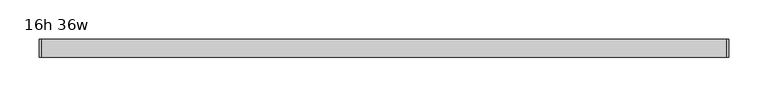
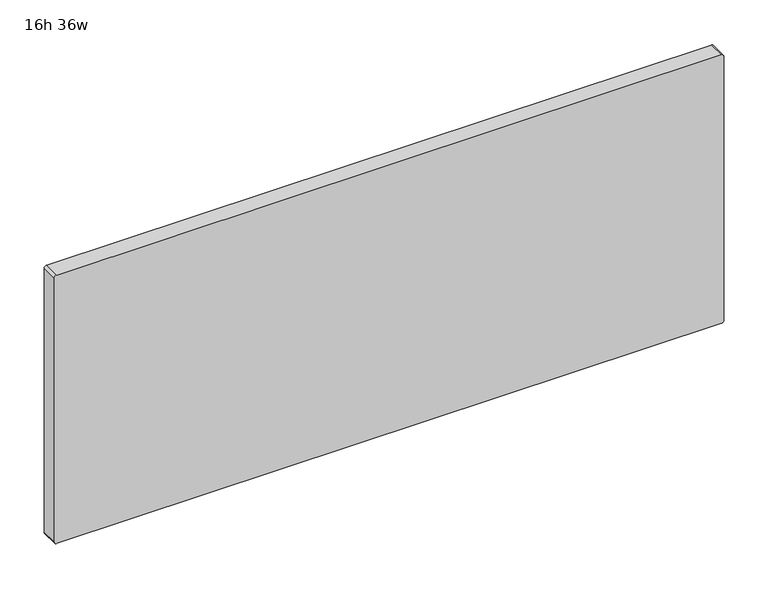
"""IFC4 building model written with IfcOpenShell, lengths in millimetres: furniture geometry, Haworth_BeHold_Accessory_Tackboard : 16h 36w."""

import ifcopenshell
import ifcopenshell.guid

model = None  # the IFC model being written
_history = None  # IfcOwnerHistory: only IFC2X3 demands one
_inside = {}  # id of a spatial element -> (the spatial element, [elements in it])
_under = {}  # id of a project, library or spatial element -> (it, [spatial elements below it])
_declared = {}  # id of a project -> (the project, [libraries it declares])
_typed = {}  # id of a type object -> (the type object, [elements of that type])
_made_of = {}  # id of a material, layer set ... -> (it, [elements and type objects made of it])


def new_model(schema):
    """Start an empty IFC model of exactly this schema.

    Asked for "IFC4X3", IfcOpenShell would pick the latest addendum, in which some entities
    have other attributes; the version numbers below select the first issue.
    IFC2X3 requires an IfcOwnerHistory on every rooted entity: one is made here for all.
    """
    global model, _history
    if schema == "IFC4X3":
        model = ifcopenshell.file(schema_version=(4, 3, 0, 0))
    else:
        model = ifcopenshell.file(schema=schema)
    _inside.clear()
    _under.clear()
    _declared.clear()
    _typed.clear()
    _made_of.clear()
    _history = None
    if model.schema == "IFC2X3":
        org = make("IfcOrganization", Name="unknown")
        user = make(
            "IfcPersonAndOrganization",
            ThePerson=make("IfcPerson", FamilyName="unknown"),
            TheOrganization=org,
        )
        app = make(
            "IfcApplication",
            ApplicationDeveloper=org,
            Version="unknown",
            ApplicationFullName="unknown",
            ApplicationIdentifier="unknown",
        )
        _history = make(
            "IfcOwnerHistory",
            OwningUser=user,
            OwningApplication=app,
            ChangeAction="ADDED",
            CreationDate=0,
        )
    return model


def make(cls, **values):
    """One entity of the class cls with the attributes given. An attribute that is None is left unset."""
    return model.create_entity(
        cls, **{name: value for name, value in values.items() if value is not None}
    )


def rooted(cls, **values):
    """An entity with a GlobalId (a new one), such as an element, a storey or a relation."""
    return make(cls, GlobalId=ifcopenshell.guid.new(), OwnerHistory=_history, **values)


def si_unit(unit_type, name, prefix=None):
    """IfcSIUnit, for example si_unit("LENGTHUNIT", "METRE", prefix="MILLI")."""
    return make("IfcSIUnit", UnitType=unit_type, Prefix=prefix, Name=name)


def assignment(units):
    """IfcUnitAssignment: the units of a project."""
    return None if units is None else make("IfcUnitAssignment", Units=units)


def point(xyz):
    """IfcCartesianPoint."""
    return None if xyz is None else make("IfcCartesianPoint", Coordinates=xyz)


def direction(xyz):
    """IfcDirection."""
    return None if xyz is None else make("IfcDirection", DirectionRatios=xyz)


def frame(location, z_axis=None, x_axis=None):
    """IfcAxis2Placement3D, a coordinate frame: its origin and axes. An axis left out is left unset."""
    return make(
        "IfcAxis2Placement3D",
        Location=point(location),
        Axis=direction(z_axis),
        RefDirection=direction(x_axis),
    )


def frame_2d(location, x_axis=None):
    """IfcAxis2Placement2D, a coordinate frame in the plane: its origin and x axis."""
    return make(
        "IfcAxis2Placement2D", Location=point(location), RefDirection=direction(x_axis)
    )


def origin():
    """The frame at (0, 0, 0) with its axes left unset."""
    return frame((0.0, 0.0, 0.0))


def place(relative_to, where):
    """IfcLocalPlacement: puts the frame where relative to a parent placement (None: the world)."""
    return make(
        "IfcLocalPlacement", PlacementRelTo=relative_to, RelativePlacement=where
    )


def context(
    kind, dimensions, precision=None, world=None, true_north=None, identifier=None
):
    """IfcGeometricRepresentationContext, for example the 3D "Model" context."""
    return make(
        "IfcGeometricRepresentationContext",
        ContextIdentifier=identifier,
        ContextType=kind,
        CoordinateSpaceDimension=dimensions,
        Precision=precision,
        WorldCoordinateSystem=world,
        TrueNorth=true_north,
    )


def project(units=None, contexts=None):
    """IfcProject with its units and contexts."""
    return rooted(
        "IfcProject",
        Name="project",
        RepresentationContexts=contexts,
        UnitsInContext=assignment(units),
    )


def spatial(cls, under=None, at=None, **own):
    """A site, building, storey or space (cls), placed at a placement, below another one or the project."""
    s = rooted(cls, ObjectPlacement=at, **own)
    if under is not None:
        _under.setdefault(under.id(), (under, []))[1].append(s)
    return s


def polyline(points):
    """IfcPolyline through the points."""
    return make("IfcPolyline", Points=[point(p) for p in points])


def circle_curve(where, radius):
    """IfcCircle in the frame where."""
    return make("IfcCircle", Position=where, Radius=radius)


def trimmed(basis, trim1, trim2, sense, master):
    """IfcTrimmedCurve: the piece of a basis curve between two trims."""
    return make(
        "IfcTrimmedCurve",
        BasisCurve=basis,
        Trim1=trim1,
        Trim2=trim2,
        SenseAgreement=sense,
        MasterRepresentation=master,
    )


def segment(curve, same_sense, transition):
    """IfcCompositeCurveSegment."""
    return make(
        "IfcCompositeCurveSegment",
        Transition=transition,
        SameSense=same_sense,
        ParentCurve=curve,
    )


def composite_curve(segments, self_intersect=None):
    """IfcCompositeCurve: segments joined end to end."""
    return make("IfcCompositeCurve", Segments=segments, SelfIntersect=self_intersect)


def outline(outer, holes=None, kind="AREA"):
    """IfcArbitraryClosedProfileDef: a profile drawn as a closed curve; with holes, ...WithVoids."""
    if holes is None:
        return make("IfcArbitraryClosedProfileDef", ProfileType=kind, OuterCurve=outer)
    return make(
        "IfcArbitraryProfileDefWithVoids",
        ProfileType=kind,
        OuterCurve=outer,
        InnerCurves=holes,
    )


def extrude(swept, where, along, depth):
    """IfcExtrudedAreaSolid: the profile swept, set in the frame where, extruded along a direction by depth."""
    return make(
        "IfcExtrudedAreaSolid",
        SweptArea=swept,
        Position=where,
        ExtrudedDirection=direction(along),
        Depth=depth,
    )


def shape(context_of_items, identifier, shape_type, items):
    """IfcShapeRepresentation: the items that make up one representation, for example the "Body"."""
    return make(
        "IfcShapeRepresentation",
        ContextOfItems=context_of_items,
        RepresentationIdentifier=identifier,
        RepresentationType=shape_type,
        Items=items,
    )


def source(mapping_origin, context_of_items, identifier, shape_type, items):
    """IfcRepresentationMap: a shape defined once, which mapped items show again and again."""
    return make(
        "IfcRepresentationMap",
        MappingOrigin=mapping_origin,
        MappedRepresentation=shape(context_of_items, identifier, shape_type, items),
    )


def transform(
    local_origin,
    x_axis=None,
    y_axis=None,
    z_axis=None,
    scale=None,
    scale2=None,
    scale3=None,
    uniform=True,
):
    """IfcCartesianTransformationOperator3D, or its non-uniform kind. x_axis, y_axis, z_axis: its Axis1, 2, 3."""
    if uniform:
        return make(
            "IfcCartesianTransformationOperator3D",
            Axis1=direction(x_axis),
            Axis2=direction(y_axis),
            LocalOrigin=point(local_origin),
            Scale=scale,
            Axis3=direction(z_axis),
        )
    return make(
        "IfcCartesianTransformationOperator3DnonUniform",
        Axis1=direction(x_axis),
        Axis2=direction(y_axis),
        LocalOrigin=point(local_origin),
        Scale=scale,
        Axis3=direction(z_axis),
        Scale2=scale2,
        Scale3=scale3,
    )


def mapped(mapping_source, mapping_target):
    """IfcMappedItem: shows the shape of a source again, moved by a transform."""
    return make(
        "IfcMappedItem", MappingSource=mapping_source, MappingTarget=mapping_target
    )


def made_of(thing, what):
    """Note that an element or type object is made of a material, layer set ...; save() writes the relation."""
    if what is not None:
        _made_of.setdefault(what.id(), (what, []))[1].append(thing)
    return thing


def element(
    cls,
    number,
    at=None,
    inside=None,
    cuts=None,
    type_object=None,
    material=None,
    context=None,
    identifier="Body",
    shape_type=None,
    held_by="IfcProductDefinitionShape",
    body=None,
    shapes=None,
    **own,
):
    """One element of the class cls, such as IfcWall. Its Tag is "e" and its number.

    at: its placement. inside: the storey or other place that contains it. cuts: it is an
    opening in that element (IfcRelVoidsElement). A single representation is given by context,
    identifier, shape_type and body (its items); several are given by shapes. held_by: the class
    of the entity that holds the representations. save() writes the other relations.
    """
    e = rooted(cls, Tag="e%d" % number, ObjectPlacement=at, **own)
    if body is not None:
        shapes = [shape(context, identifier, shape_type, body)]
    if shapes is not None:
        e.Representation = make(held_by, Representations=shapes)
    if inside is not None:
        _inside.setdefault(inside.id(), (inside, []))[1].append(e)
    if cuts is not None:
        rooted(
            "IfcRelVoidsElement", RelatingBuildingElement=cuts, RelatedOpeningElement=e
        )
    if type_object is not None:
        _typed.setdefault(type_object.id(), (type_object, []))[1].append(e)
    return made_of(e, material)


def aggregate(whole, parts):
    """IfcRelAggregates: a whole, such as a stair, and the parts it consists of."""
    return rooted("IfcRelAggregates", RelatingObject=whole, RelatedObjects=parts)


def save(model, path):
    """Write the relations noted so far, then the file.

    IfcRelAggregates (storeys below a building ...), IfcRelContainedInSpatialStructure (elements
    in a storey), IfcRelDefinesByType, IfcRelAssociatesMaterial and IfcRelDeclares: one each for
    every whole, place, type object, material and project.
    """
    for whole, parts in _under.values():
        aggregate(whole, parts)
    for where, things in _inside.values():
        rooted(
            "IfcRelContainedInSpatialStructure",
            RelatedElements=things,
            RelatingStructure=where,
        )
    for kind, things in _typed.values():
        rooted("IfcRelDefinesByType", RelatedObjects=things, RelatingType=kind)
    for what, things in _made_of.values():
        rooted("IfcRelAssociatesMaterial", RelatedObjects=things, RelatingMaterial=what)
    for by, libraries in _declared.values():
        rooted("IfcRelDeclares", RelatingContext=by, RelatedDefinitions=libraries)
    model.write(path)


def furniture_16h_36w_87c6376e(model_context):
    return source(origin(), model_context, "Body", "SweptSolid", [
        extrude(outline(composite_curve([segment(polyline([(1290.6375, 276.2306884), (1290.6375, -589.9489991)]), True, "CONTINUOUS"), segment(trimmed(circle_curve(frame_2d((1287.4625, -589.9489991)), 3.175), [point((1290.6375, -589.9489991))], [point((1287.4625, -593.1239991))], False, "CARTESIAN"), True, "CONTINUOUS"), segment(polyline([(1287.4625, -593.1239991), (923.9448257, -593.1239991)]), True, "CONTINUOUS"), segment(trimmed(circle_curve(frame_2d((923.9448257, -589.9291734)), 3.1948257), [point((923.9448257, -593.1239991))], [point((920.75, -589.9291734))], False, "CARTESIAN"), True, "CONTINUOUS"), segment(polyline([(920.75, -589.9291734), (920.75, 276.2306884)]), True, "CONTINUOUS"), segment(trimmed(circle_curve(frame_2d((923.925, 276.2306884)), 3.175), [point((920.75, 276.2306884))], [point((923.925, 279.4056884))], False, "CARTESIAN"), True, "CONTINUOUS"), segment(polyline([(923.925, 279.4056884), (1287.4625, 279.4056884)]), True, "CONTINUOUS"), segment(trimmed(circle_curve(frame_2d((1287.4625, 276.2306884)), 3.175), [point((1287.4625, 279.4056884))], [point((1290.6375, 276.2306884))], False, "CARTESIAN"), True, "CONTINUOUS")], self_intersect=False)), frame((0.0, -303.2125, 0.0), z_axis=(0.0, 1.0, 0.0), x_axis=(0.0, 0.0, 1.0)), (0.0, 0.0, 1.0), 22.225),
    ])


if __name__ == "__main__":
    model = new_model("IFC4")
    model_context = context("Model", 3, world=origin())
    ifc_project = project(units=[si_unit("LENGTHUNIT", "METRE", prefix="MILLI")], contexts=[model_context])
    site = spatial("IfcSite", under=ifc_project)
    building = spatial("IfcBuilding", under=site)
    placement = place(None, origin())
    furniture_16h_36w_shape = furniture_16h_36w_87c6376e(model_context)
    element("IfcFurniture", 1, ObjectType="Haworth_BeHold_Accessory_Tackboard : 16h 36w", at=placement, inside=building, context=model_context, shape_type="MappedRepresentation", body=[
        mapped(furniture_16h_36w_shape, transform((0.0, 0.0, 0.0), x_axis=(1.0, 0.0, 0.0), y_axis=(0.0, 1.0, 0.0), z_axis=(0.0, 0.0, 1.0))),
    ])
    save(model, "model.ifc")
